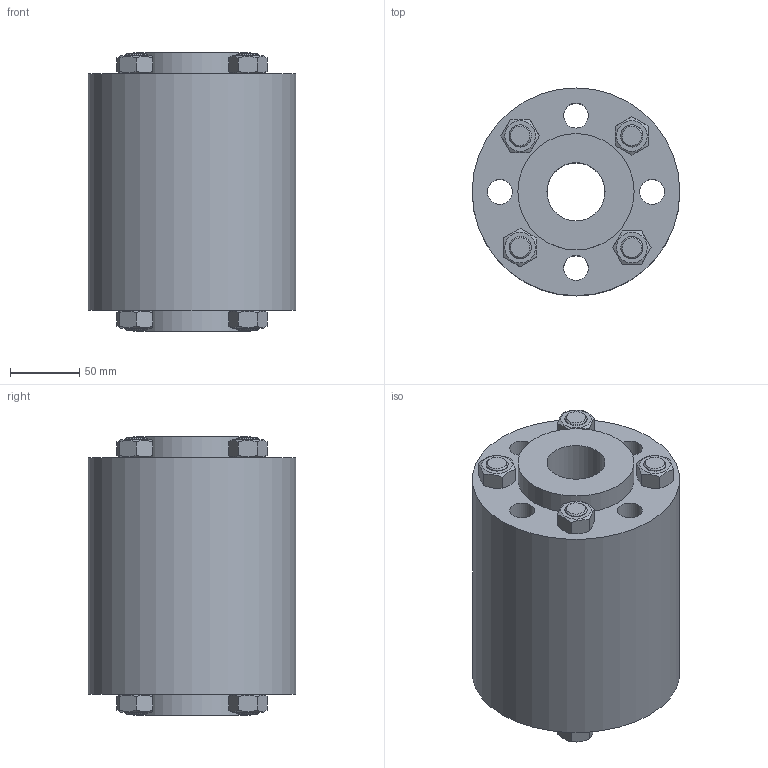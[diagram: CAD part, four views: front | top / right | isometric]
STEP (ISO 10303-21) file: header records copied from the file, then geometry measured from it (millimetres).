
FILE_DESCRIPTION(/* description */ ('ACI TYPE 620 DN40'),/* implementation_level */ '2;1');
FILE_NAME(/* name */ 'C:\Users\willms\Desktop\ACI-620-40.stp',/* time_stamp */ '2020-03-19T10:14:32+01:00',/* author */ ('götz'),/* organization */ ('ACI Industriearmaturen GmbH www.aci24.com info@aci24.com'),/* preprocessor_version */ 'ST-DEVELOPER v16.1',/* originating_system */ 'Autodesk Inventor 2016',/* authorisation */ 'ACI Industriearmaturen GmbH www.aci24.com info@aci24.com');
FILE_SCHEMA (('CONFIG_CONTROL_DESIGN'));
Length unit declared in the file: centimetre
Products named in the file (1): ACI-620-40
Bounding box: 150 x 150 x 201 mm (x, y, z)
Volume: 2788739 mm3; surface area: 194123.7 mm2
Topology: 1 solids, 9 shells, 140 faces, 313 edges, 201 vertices
Faces by surface type: plane 76, cone 40, cylinder 24
Full cylindrical faces by diameter (mm): 16 x16, 18 x4, 42 x1, 84 x2, 150 x1
Entity records: 3498 total; most frequent: CARTESIAN_POINT 749, DIRECTION 506, ORIENTED_EDGE 464, EDGE_LOOP 240, EDGE_CURVE 232, AXIS2_PLACEMENT_3D 229, VERTEX_POINT 184, FACE_OUTER_BOUND 140
